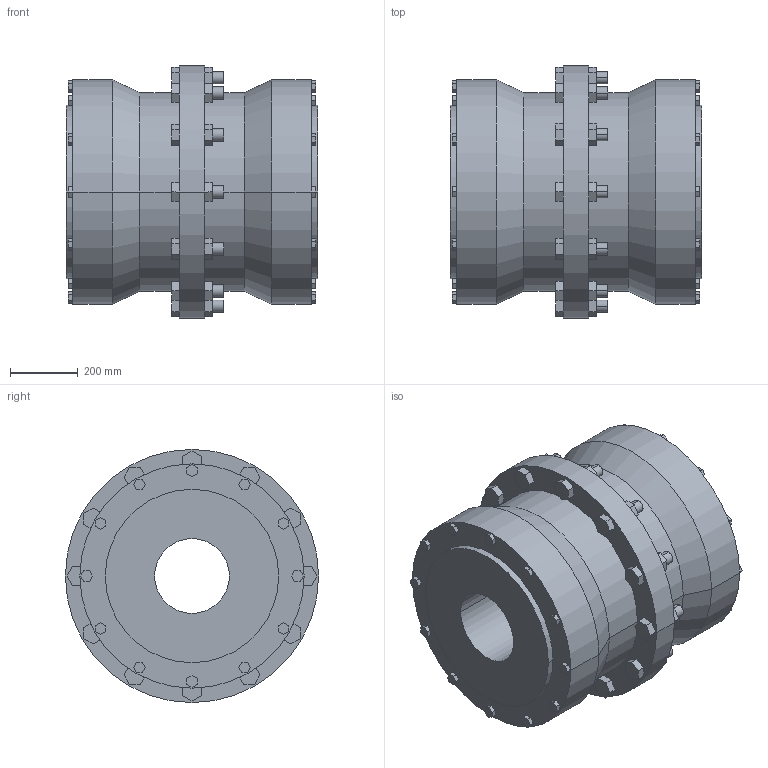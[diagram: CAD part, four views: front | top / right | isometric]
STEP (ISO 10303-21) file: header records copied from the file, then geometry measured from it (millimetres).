
FILE_DESCRIPTION((''),'2;1');
FILE_NAME('A18986600-0_ASM','2018-09-26T',('AB_Roschiwal'),('RENK AG'),'PRO/ENGINEER BY PARAMETRIC TECHNOLOGY CORPORATION, 2015440','PRO/ENGINEER BY PARAMETRIC TECHNOLOGY CORPORATION, 2015440','');
FILE_SCHEMA(('CONFIG_CONTROL_DESIGN'));
Length unit declared in the file: millimetre
Products named in the file (3): SBK315_GEHAEUSE; SBK315_NABE; A18986600-0_ASM
Assembly tree (3 placements, depth 2):
  A18986600-0_ASM
    SBK315_GEHAEUSE
    SBK315_NABE  x2
Bounding box: 740 x 745 x 745 mm (x, y, z)
Volume: 195961042.8 mm3; surface area: 5784877.2 mm2
Topology: 3 solids, 3 shells, 422 faces, 1036 edges, 688 vertices
Faces by surface type: plane 362, cylinder 56, cone 4
Entity records: 12052 total; most frequent: CARTESIAN_POINT 2100, ORIENTED_EDGE 2024, DIRECTION 1940, EDGE_CURVE 1012, VECTOR 916, LINE 916, VERTEX_POINT 672, AXIS2_PLACEMENT_3D 512
